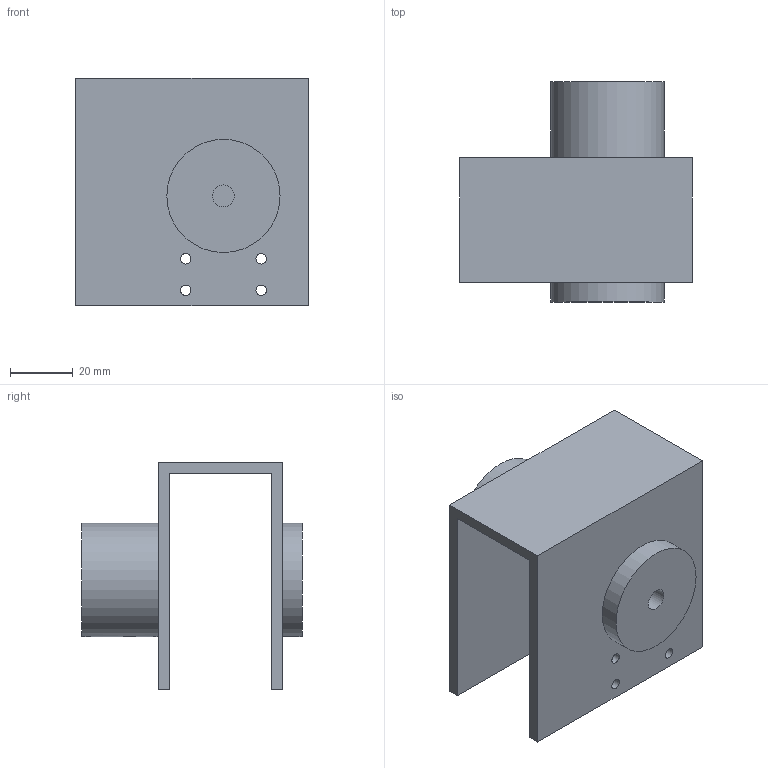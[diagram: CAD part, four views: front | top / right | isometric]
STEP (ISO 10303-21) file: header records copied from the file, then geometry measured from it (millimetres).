
FILE_DESCRIPTION(('Open CASCADE Model'),'2;1');
FILE_NAME('Open CASCADE Shape Model','2026-10-16T05:05:18',('Author'),( 'Open CASCADE'),'Open CASCADE STEP processor 7.9','Open CASCADE 7.9' ,'Unknown');
FILE_SCHEMA(('AUTOMOTIVE_DESIGN { 1 0 10303 214 1 1 1 1 }'));
Length unit declared in the file: millimetre
Products named in the file (1): Open CASCADE STEP translator 7.9 4
Bounding box: 74 x 70 x 72.5 mm (x, y, z)
Volume: 66865.4 mm3; surface area: 34620.6 mm2
Topology: 1 solids, 1 shells, 35 faces, 75 edges, 50 vertices
Faces by surface type: plane 18, cylinder 17
Full cylindrical faces by diameter (mm): 2.5 x3, 3.3 x8, 4 x1, 6 x1, 7 x1, 29 x1, 36 x2
Entity records: 2326 total; most frequent: CARTESIAN_POINT 693, DIRECTION 313, LINE 151, VECTOR 151, ORIENTED_EDGE 150, PCURVE 150, DEFINITIONAL_REPRESENTATION 150, EDGE_CURVE 75
